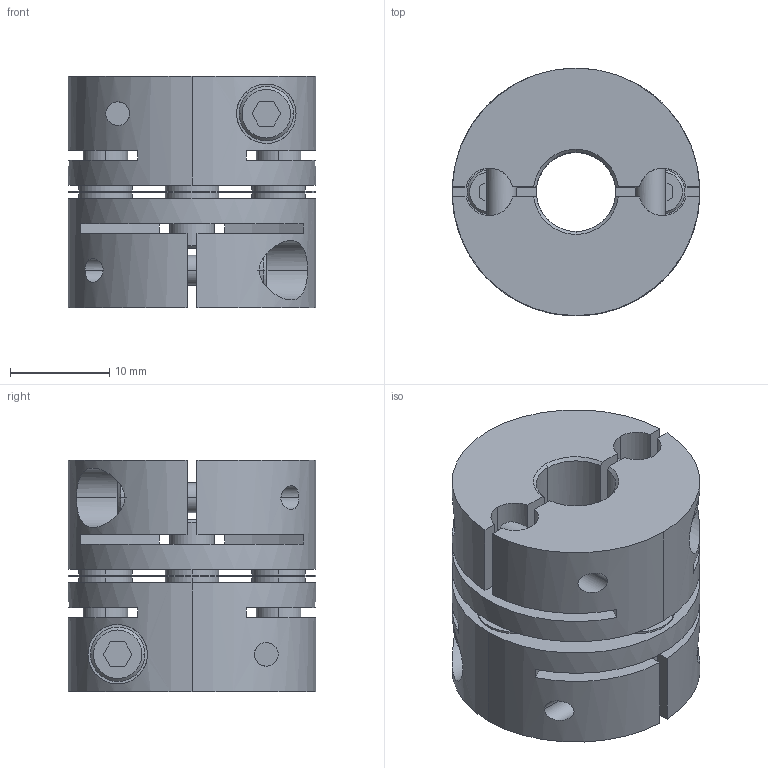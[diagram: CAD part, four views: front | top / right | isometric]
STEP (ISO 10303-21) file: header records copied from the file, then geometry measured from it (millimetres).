
FILE_DESCRIPTION((''),'2;1');
FILE_NAME('LAS-25C-8×8.stp','2011-08-10T10:27:17',(''),(''),'AutoCAD STEP 2000i','AutoCAD 2000i',', , ');
FILE_SCHEMA(('CONFIG_CONTROL_DESIGN'));
Length unit declared in the file: millimetre
Products named in the file (5): LAS-25C-6×6; 忣兜1; LA-2502-D06-1; LA-2502-D06; LAS25-ITA
Assembly tree (4 placements, depth 2):
  LAS-25C-6×6
    忣兜1
    LA-2502-D06-1
    LA-2502-D06
    LAS25-ITA
Bounding box: 25 x 25 x 23.4 mm (x, y, z)
Volume: 8434.4 mm3; surface area: 6859 mm2
Topology: 1 solids, 1 shells, 244 faces, 648 edges, 424 vertices
Faces by surface type: plane 112, cylinder 104, cone 28
Entity records: 8499 total; most frequent: CARTESIAN_POINT 2121, DIRECTION 1326, ORIENTED_EDGE 1296, EDGE_CURVE 648, AXIS2_PLACEMENT_3D 485, VERTEX_POINT 424, VECTOR 356, LINE 356
